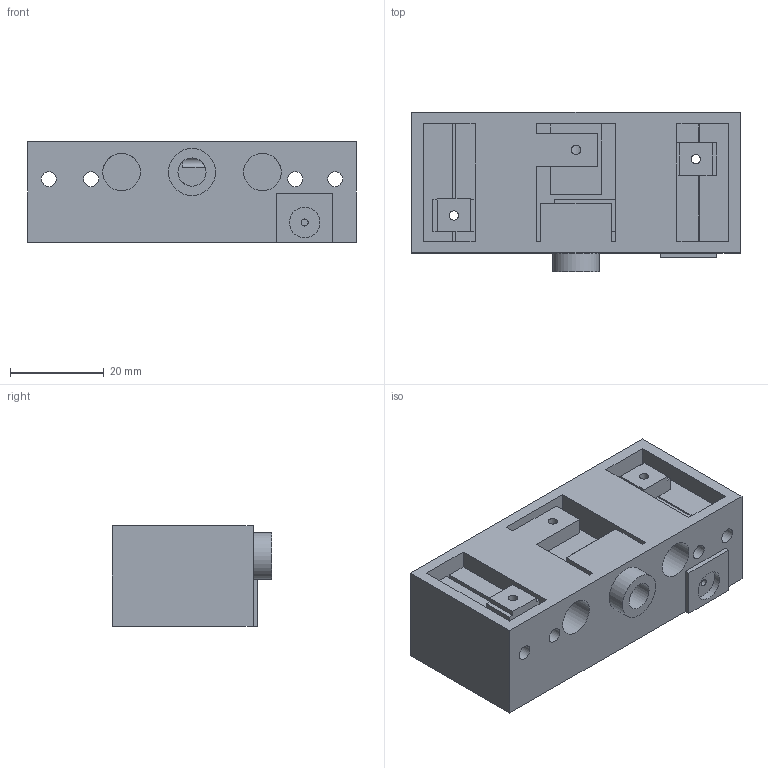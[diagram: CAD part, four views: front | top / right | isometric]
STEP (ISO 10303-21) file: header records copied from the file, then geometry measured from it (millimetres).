
FILE_DESCRIPTION(('Open CASCADE Model'),'2;1');
FILE_NAME('Open CASCADE Shape Model','2026-08-15T00:00:33',('Author'),( 'Open CASCADE'),'Open CASCADE STEP processor 7.9','build123d', 'Unknown');
FILE_SCHEMA(('AUTOMOTIVE_DESIGN { 1 0 10303 214 1 1 1 1 }'));
Length unit declared in the file: millimetre
Products named in the file (1): COMPOUND
Bounding box: 70 x 34 x 21.5 mm (x, y, z)
Volume: 26322.7 mm3; surface area: 16058 mm2
Topology: 1 solids, 1 shells, 124 faces, 346 edges, 228 vertices
Faces by surface type: plane 99, cylinder 25
Full cylindrical faces by diameter (mm): 1.5 x1, 2 x13, 2.5 x1, 3.2 x4, 6 x2, 6.5 x1, 8 x2, 10 x1
Entity records: 9796 total; most frequent: CARTESIAN_POINT 3282, DIRECTION 1051, ORIENTED_EDGE 692, PCURVE 692, DEFINITIONAL_REPRESENTATION 692, LINE 666, VECTOR 666, EDGE_CURVE 346
